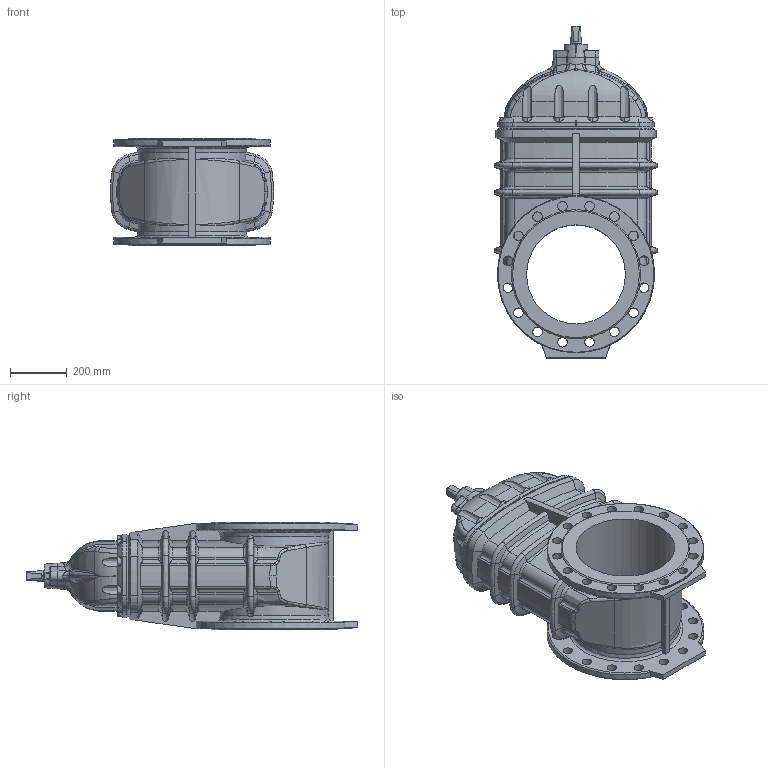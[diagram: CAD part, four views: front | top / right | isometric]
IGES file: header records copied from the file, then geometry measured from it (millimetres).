
Start section: SolidWorks IGES file using analytic representation for surfaces
Global section: file name: \\avksan2\techshare\PBM outline export from Enovia\O_21_60_DN350_07_AA0_igs.igs; native system: SolidWorks 2012; preprocessor: SolidWorks 2012; author: pbm; date: 161028.075048; units: millimetre
Bounding box: 577.98 x 1174.18 x 381 mm (x, y, z)
Surface area: 2580406.7 mm2 (no closed solid volume)
Topology: 0 solids, 0 shells, 780 faces, 4241 edges, 4171 vertices
Faces by surface type: revolution 494, bspline 286
